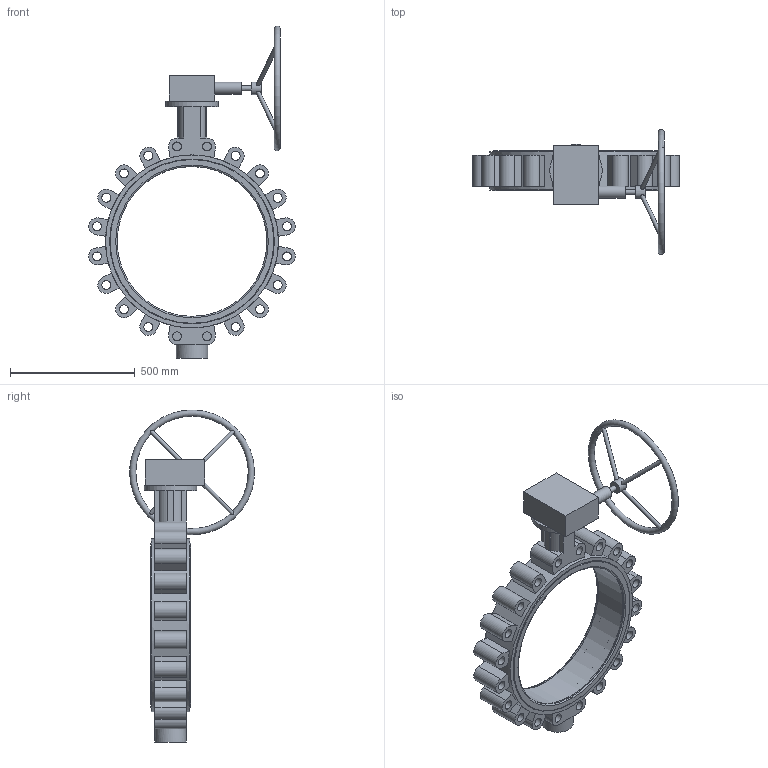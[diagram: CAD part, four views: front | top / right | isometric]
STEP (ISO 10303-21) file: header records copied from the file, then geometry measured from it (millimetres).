
FILE_DESCRIPTION (( 'STEP AP203' ), '1' );
FILE_NAME ('2502 LT型中线衬胶带销 手动头蝶阀 DN600 PN25 CD0309067.STEP', '2026-04-01T06:22:59', ( '' ), ( '' ), 'SwSTEP 2.0', 'SolidWorks 2018', '' );
FILE_SCHEMA (( 'CONFIG_CONTROL_DESIGN' ));
Length unit declared in the file: millimetre
Products named in the file (4): GALA-D600-04AC-00; GALA-D600-01LC25-00; 2502 LT型中线衬胶带销 手动头蝶阀 DN600 PN25 CD0309067; G200-X 忒謫500 潠趙
Assembly tree (3 placements, depth 2):
  2502 LT型中线衬胶带销 手动头蝶阀 DN600 PN25 CD0309067
    GALA-D600-01LC25-00
    GALA-D600-04AC-00
    G200-X 忒謫500 潠趙
Bounding box: 828.1 x 499.72 x 1329.94 mm (x, y, z)
Volume: 33445506.3 mm3; surface area: 2799316.3 mm2
Topology: 3 solids, 3 shells, 200 faces, 493 edges, 328 vertices
Faces by surface type: plane 113, cylinder 70, torus 9, cone 8
Full cylindrical faces by diameter (mm): 16 x4, 20 x1, 22 x4, 36 x24, 45.644 x1, 48 x1, 50 x1, 125 x1, 210 x1, 600.416 x1, 605 x1, 608.062 x1, 660 x4, 693 x1
Entity records: 6668 total; most frequent: CARTESIAN_POINT 1686, DIRECTION 986, ORIENTED_EDGE 802, EDGE_CURVE 401, AXIS2_PLACEMENT_3D 389, EDGE_LOOP 344, VERTEX_POINT 301, FACE_OUTER_BOUND 253
